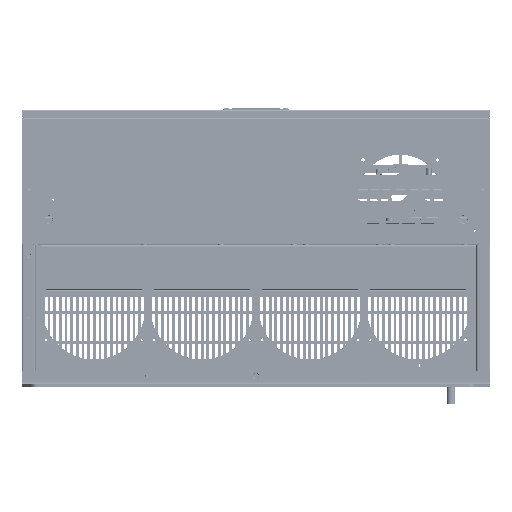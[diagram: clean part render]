
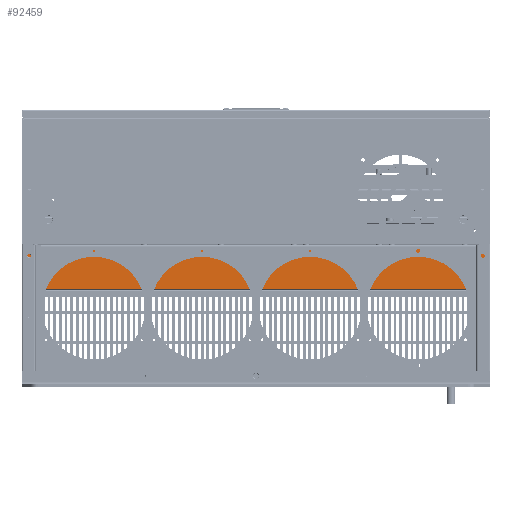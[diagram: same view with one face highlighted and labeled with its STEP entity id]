
A CAD part, front view. The second image highlights one B-rep face of the part: STEP entity #92459.
In plain terms, the highlighted planar face has unit normal (0, -1, 0).
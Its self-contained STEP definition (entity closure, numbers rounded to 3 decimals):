
#496 = EDGE_CURVE ( 'NONE', #245248, #79531, #7119, .T. ) ;
#1147 = EDGE_CURVE ( 'NONE', #139965, #254366, #16723, .T. ) ;
#7119 = LINE ( 'NONE', #93562, #164280 ) ;
#10032 = ORIENTED_EDGE ( 'NONE', *, *, #25686, .F. ) ;
#14316 = CARTESIAN_POINT ( 'NONE',  ( 62.3, -361.75, -326.8 ) ) ;
#14348 = CARTESIAN_POINT ( 'NONE',  ( 9.25, -361.75, -326.05 ) ) ;
#16723 = LINE ( 'NONE', #136246, #244210 ) ;
#19119 = FACE_OUTER_BOUND ( 'NONE', #104712, .T. ) ;
#22812 = LINE ( 'NONE', #200720, #243603 ) ;
#25686 = EDGE_CURVE ( 'NONE', #220432, #254366, #22812, .T. ) ;
#29230 = DIRECTION ( 'NONE',  ( -1., 0., 0. ) ) ;
#37781 = EDGE_CURVE ( 'NONE', #206421, #66570, #180833, .T. ) ;
#39065 = VECTOR ( 'NONE', #221387, 1000. ) ;
#39292 = EDGE_CURVE ( 'NONE', #115124, #56510, #189311, .T. ) ;
#42227 = CARTESIAN_POINT ( 'NONE',  ( 0., -361.75, 0. ) ) ;
#45018 = VERTEX_POINT ( 'NONE', #226793 ) ;
#47070 = EDGE_CURVE ( 'NONE', #45018, #95787, #138922, .T. ) ;
#49425 = VECTOR ( 'NONE', #29230, 1000. ) ;
#50223 = CARTESIAN_POINT ( 'NONE',  ( 0., -361.75, 326.05 ) ) ;
#51883 = CARTESIAN_POINT ( 'NONE',  ( 10., -361.75, 0. ) ) ;
#52112 = DIRECTION ( 'NONE',  ( 0., 0., -1. ) ) ;
#52558 = CARTESIAN_POINT ( 'NONE',  ( 9.25, -361.75, -328.5 ) ) ;
#56510 = VERTEX_POINT ( 'NONE', #171203 ) ;
#57715 = VECTOR ( 'NONE', #129950, 1000. ) ;
#63716 = DIRECTION ( 'NONE',  ( 0., 1., 0. ) ) ;
#66570 = VERTEX_POINT ( 'NONE', #215221 ) ;
#69134 = ORIENTED_EDGE ( 'NONE', *, *, #258071, .F. ) ;
#69295 = ORIENTED_EDGE ( 'NONE', *, *, #191109, .F. ) ;
#71001 = ORIENTED_EDGE ( 'NONE', *, *, #92511, .T. ) ;
#71216 = CARTESIAN_POINT ( 'NONE',  ( 62.3, -361.75, 326.8 ) ) ;
#71288 = CARTESIAN_POINT ( 'NONE',  ( 0., -361.75, -326.05 ) ) ;
#71731 = DIRECTION ( 'NONE',  ( 1., 0., 0. ) ) ;
#72084 = ORIENTED_EDGE ( 'NONE', *, *, #222764, .F. ) ;
#73748 = CARTESIAN_POINT ( 'NONE',  ( 62.3, -361.75, 326.8 ) ) ;
#75509 = VECTOR ( 'NONE', #244496, 1000. ) ;
#77409 = VERTEX_POINT ( 'NONE', #267906 ) ;
#79397 = LINE ( 'NONE', #50223, #149737 ) ;
#79531 = VERTEX_POINT ( 'NONE', #14316 ) ;
#81356 = VECTOR ( 'NONE', #223412, 1000. ) ;
#82024 = VECTOR ( 'NONE', #189781, 1000. ) ;
#86632 = DIRECTION ( 'NONE',  ( 0., 0., -1. ) ) ;
#90266 = LINE ( 'NONE', #214768, #197274 ) ;
#92459 = ADVANCED_FACE ( 'NONE', ( #19119 ), #191807, .F. ) ;
#92511 = EDGE_CURVE ( 'NONE', #115124, #79531, #228463, .T. ) ;
#93562 = CARTESIAN_POINT ( 'NONE',  ( 62.3, -361.75, 328.5 ) ) ;
#95787 = VERTEX_POINT ( 'NONE', #238403 ) ;
#104712 = EDGE_LOOP ( 'NONE', ( #184913, #116761, #269646, #69134, #251955, #210426, #146398, #72084, #213633, #10032, #69295, #249659, #71001, #177163 ) ) ;
#106301 = LINE ( 'NONE', #71288, #49425 ) ;
#108786 = CARTESIAN_POINT ( 'NONE',  ( 0.2, -361.75, 326.8 ) ) ;
#115124 = VERTEX_POINT ( 'NONE', #242314 ) ;
#116761 = ORIENTED_EDGE ( 'NONE', *, *, #47070, .F. ) ;
#117167 = VECTOR ( 'NONE', #184543, 1000. ) ;
#122267 = VECTOR ( 'NONE', #142383, 1000. ) ;
#123541 = EDGE_CURVE ( 'NONE', #186561, #45018, #79397, .T. ) ;
#129950 = DIRECTION ( 'NONE',  ( 1., 0., 0. ) ) ;
#131480 = LINE ( 'NONE', #73748, #81356 ) ;
#136246 = CARTESIAN_POINT ( 'NONE',  ( 0., -361.75, -328.5 ) ) ;
#136491 = CARTESIAN_POINT ( 'NONE',  ( 0., -361.75, 328.5 ) ) ;
#138922 = LINE ( 'NONE', #168309, #82024 ) ;
#139965 = VERTEX_POINT ( 'NONE', #225172 ) ;
#142383 = DIRECTION ( 'NONE',  ( 0., 0., 1. ) ) ;
#146398 = ORIENTED_EDGE ( 'NONE', *, *, #174830, .F. ) ;
#149737 = VECTOR ( 'NONE', #199780, 1000. ) ;
#157748 = CARTESIAN_POINT ( 'NONE',  ( 0.2, -361.75, 328.5 ) ) ;
#162698 = LINE ( 'NONE', #136491, #269711 ) ;
#163073 = CARTESIAN_POINT ( 'NONE',  ( 0.2, -361.75, 328.5 ) ) ;
#164280 = VECTOR ( 'NONE', #200118, 1000. ) ;
#168309 = CARTESIAN_POINT ( 'NONE',  ( 10., -361.75, 0. ) ) ;
#171203 = CARTESIAN_POINT ( 'NONE',  ( 10., -361.75, -326.05 ) ) ;
#174830 = EDGE_CURVE ( 'NONE', #77409, #206421, #179255, .T. ) ;
#177163 = ORIENTED_EDGE ( 'NONE', *, *, #496, .F. ) ;
#179255 = LINE ( 'NONE', #205970, #122267 ) ;
#180833 = LINE ( 'NONE', #163073, #117167 ) ;
#184543 = DIRECTION ( 'NONE',  ( 0., 0., 1. ) ) ;
#184913 = ORIENTED_EDGE ( 'NONE', *, *, #193400, .T. ) ;
#186561 = VERTEX_POINT ( 'NONE', #209206 ) ;
#189311 = LINE ( 'NONE', #51883, #75509 ) ;
#189781 = DIRECTION ( 'NONE',  ( 0., 0., 1. ) ) ;
#191109 = EDGE_CURVE ( 'NONE', #56510, #220432, #106301, .T. ) ;
#191807 = PLANE ( 'NONE',  #236995 ) ;
#193400 = EDGE_CURVE ( 'NONE', #245248, #95787, #131480, .T. ) ;
#197274 = VECTOR ( 'NONE', #86632, 1000. ) ;
#199780 = DIRECTION ( 'NONE',  ( 1., 0., 0. ) ) ;
#200118 = DIRECTION ( 'NONE',  ( 0., 0., -1. ) ) ;
#200720 = CARTESIAN_POINT ( 'NONE',  ( 9.25, -361.75, 0. ) ) ;
#205970 = CARTESIAN_POINT ( 'NONE',  ( 0.2, -361.75, 328.5 ) ) ;
#206421 = VERTEX_POINT ( 'NONE', #108786 ) ;
#207615 = VERTEX_POINT ( 'NONE', #234793 ) ;
#209206 = CARTESIAN_POINT ( 'NONE',  ( 9.25, -361.75, 326.05 ) ) ;
#210426 = ORIENTED_EDGE ( 'NONE', *, *, #37781, .F. ) ;
#213278 = DIRECTION ( 'NONE',  ( -1., 0., 0. ) ) ;
#213633 = ORIENTED_EDGE ( 'NONE', *, *, #1147, .T. ) ;
#214768 = CARTESIAN_POINT ( 'NONE',  ( 9.25, -361.75, 0. ) ) ;
#215221 = CARTESIAN_POINT ( 'NONE',  ( 0.2, -361.75, 328.5 ) ) ;
#220432 = VERTEX_POINT ( 'NONE', #14348 ) ;
#221387 = DIRECTION ( 'NONE',  ( 0., 0., 1. ) ) ;
#221647 = DIRECTION ( 'NONE',  ( -1., 0., 0. ) ) ;
#222764 = EDGE_CURVE ( 'NONE', #139965, #77409, #266534, .T. ) ;
#223412 = DIRECTION ( 'NONE',  ( -1., 0., 0. ) ) ;
#225172 = CARTESIAN_POINT ( 'NONE',  ( 0.2, -361.75, -328.5 ) ) ;
#226793 = CARTESIAN_POINT ( 'NONE',  ( 10., -361.75, 326.05 ) ) ;
#228463 = LINE ( 'NONE', #258123, #57715 ) ;
#234793 = CARTESIAN_POINT ( 'NONE',  ( 9.25, -361.75, 328.5 ) ) ;
#236995 = AXIS2_PLACEMENT_3D ( 'NONE', #42227, #63716, #213278 ) ;
#238403 = CARTESIAN_POINT ( 'NONE',  ( 10., -361.75, 326.8 ) ) ;
#242314 = CARTESIAN_POINT ( 'NONE',  ( 10., -361.75, -326.8 ) ) ;
#243603 = VECTOR ( 'NONE', #52112, 1000. ) ;
#244210 = VECTOR ( 'NONE', #71731, 1000. ) ;
#244496 = DIRECTION ( 'NONE',  ( 0., 0., 1. ) ) ;
#245248 = VERTEX_POINT ( 'NONE', #71216 ) ;
#249659 = ORIENTED_EDGE ( 'NONE', *, *, #39292, .F. ) ;
#251955 = ORIENTED_EDGE ( 'NONE', *, *, #262951, .T. ) ;
#254366 = VERTEX_POINT ( 'NONE', #52558 ) ;
#258071 = EDGE_CURVE ( 'NONE', #207615, #186561, #90266, .T. ) ;
#258123 = CARTESIAN_POINT ( 'NONE',  ( 10., -361.75, -326.8 ) ) ;
#262951 = EDGE_CURVE ( 'NONE', #207615, #66570, #162698, .T. ) ;
#266534 = LINE ( 'NONE', #157748, #39065 ) ;
#267906 = CARTESIAN_POINT ( 'NONE',  ( 0.2, -361.75, -326.8 ) ) ;
#269646 = ORIENTED_EDGE ( 'NONE', *, *, #123541, .F. ) ;
#269711 = VECTOR ( 'NONE', #221647, 1000. ) ;
